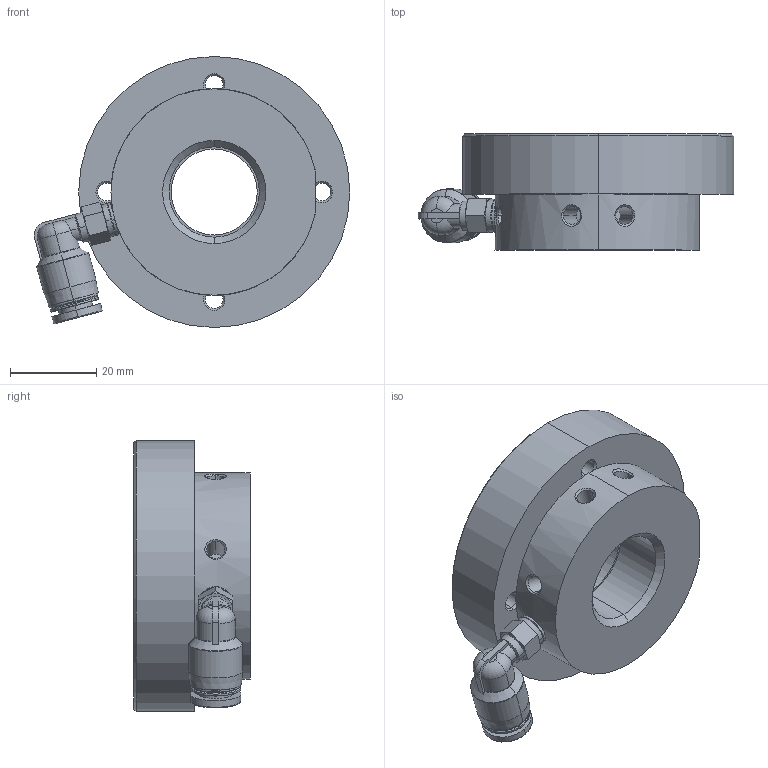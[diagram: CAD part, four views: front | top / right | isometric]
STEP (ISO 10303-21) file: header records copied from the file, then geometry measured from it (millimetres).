
FILE_DESCRIPTION (( 'STEP AP214' ), '1' );
FILE_NAME ('QCM_02G.STEP', '2019-12-04T09:28:53', ( '微软用户' ), ( '微软中国' ), 'SwSTEP 2.0', 'SolidWorks 2016', '' );
FILE_SCHEMA (( 'AUTOMOTIVE_DESIGN' ));
Length unit declared in the file: millimetre
Products named in the file (1): QCM_02G
Bounding box: 73.33 x 27 x 63 mm (x, y, z)
Volume: 53868.5 mm3; surface area: 17183.8 mm2
Topology: 2 solids, 2 shells, 252 faces, 576 edges, 348 vertices
Faces by surface type: cylinder 81, plane 76, cone 69, torus 25, sphere 1
Entity records: 10373 total; most frequent: CARTESIAN_POINT 1769, DIRECTION 1299, ORIENTED_EDGE 1148, EDGE_CURVE 574, AXIS2_PLACEMENT_3D 533, VERTEX_POINT 347, EDGE_LOOP 285, CIRCLE 280
